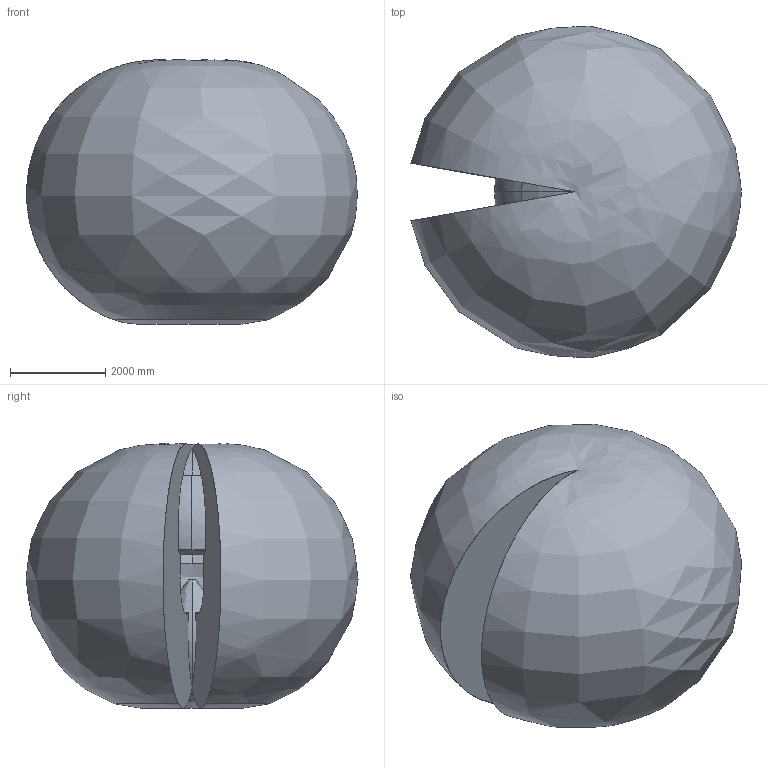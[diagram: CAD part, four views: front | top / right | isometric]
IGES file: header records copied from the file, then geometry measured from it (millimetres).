
Start section: SolidWorks IGES file using analytic representation for surfaces
Global section: file name: C:\DATA\SAP_DOC\LW\IRB 6730S\IRB6730S_210kg-350_OC_01_SW_J\export\IRB6730S_210kg-350_OC_01_IGES_J\IRB6730S_210kg-350_OC_00_Working-envelope.igs; native system: SolidWorks 2024; preprocessor: SolidWorks 2024; author: SEJOVAS3; date: 260526.123200; units: millimetre
Bounding box: 6956.17 x 6982.64 x 5557.04 mm (x, y, z)
Surface area: 183848078.6 mm2 (no closed solid volume)
Topology: 0 solids, 0 shells, 23 faces, 608 edges, 596 vertices
Faces by surface type: bspline 23
